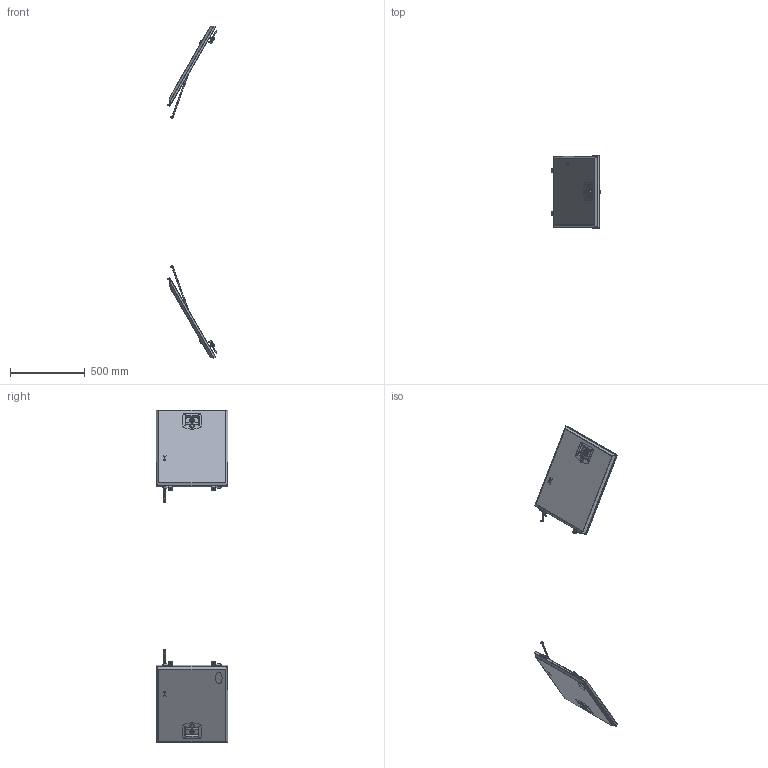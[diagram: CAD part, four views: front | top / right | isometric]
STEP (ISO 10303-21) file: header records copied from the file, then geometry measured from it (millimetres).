
FILE_DESCRIPTION (( 'STEP AP214' ), '1' );
FILE_NAME ('LID FOR SIDE OPENING STEEL TB WITH S-S DOOR-L1200xH500xD500 (3D)-R0.STEP', '2023-10-12T03:12:05', ( '' ), ( '' ), 'SwSTEP 2.0', 'SolidWorks 2021', '' );
FILE_SCHEMA (( 'AUTOMOTIVE_DESIGN' ));
Length unit declared in the file: millimetre
Products named in the file (20): AC-01-Rivet 4mm x 8mmL S-Steel Sealed Dome Rivet; TBPCSSDD1200-Ass Barrel hinge Female Part LH-1; Nyloc Nut M4_DIN EN ISO 7040 - M5 - C; Brass washer M6_Washer ISO 7090 - 6; TBPCSSDD1200-8mm dia Black Plastic Heat Shrink; TBPCSSDD1200-Barrel Hinge Female Part (S-Steel) Weld on; TBPCSSDD1200-Barrel Hinge Male Part LH; Barrel hinge Female Part RH (STEEL); TBPCSSDD1200-PART 4-LW (LID); TBPCSSDD1200-LABLE; Domed Allen Head Bolt M4-15mm long_B18.3.4M - 4 x 0.7 x 16 SBHCS --C; TBPCSSDD1200-Ass Barrel hinge Female Part RH-1; TBPCSSDD1200-Part1; TBPCSSDD1200-STEEL SQUARE PLATE; TBPCSSDD1200-Chain Link; Stainless steel washer to suit M4_B18.22M - Plain washer, 4 mm, narrow; TBPCSSDD1200-PART 4-LW (LID)_TBPCSSDD1200-PART 4 (LID); TBPCSSDD1200-KEY BASE; LID FOR SIDE OPENING STEEL TB WITH S-S DOOR-L1200xH500xD500 (3D)-R0; TBPCSSDD1200-Grease nipple M6
Assembly tree (74 placements, depth 3):
  LID FOR SIDE OPENING STEEL TB WITH S-S DOOR-L1200xH500xD500 (3D)-R0
    TBPCSSDD1200-PART 4-LW (LID)
    TBPCSSDD1200-KEY BASE  x2
    TBPCSSDD1200-LABLE
    TBPCSSDD1200-Ass Barrel hinge Female Part LH-1  x2
      TBPCSSDD1200-Barrel Hinge Female Part (S-Steel) Weld on
      TBPCSSDD1200-Barrel Hinge Male Part LH
      TBPCSSDD1200-Grease nipple M6
      Brass washer M6_Washer ISO 7090 - 6
      Domed Allen Head Bolt M4-15mm long_B18.3.4M - 4 x 0.7 x 16 SBHCS --C
      Stainless steel washer to suit M4_B18.22M - Plain washer, 4 mm, narrow
      Nyloc Nut M4_DIN EN ISO 7040 - M5 - C
    TBPCSSDD1200-Ass Barrel hinge Female Part RH-1  x2
      Brass washer M6_Washer ISO 7090 - 6
      TBPCSSDD1200-Barrel Hinge Female Part (S-Steel) Weld on
      TBPCSSDD1200-Grease nipple M6
      Barrel hinge Female Part RH (STEEL)
      Domed Allen Head Bolt M4-15mm long_B18.3.4M - 4 x 0.7 x 16 SBHCS --C
      Stainless steel washer to suit M4_B18.22M - Plain washer, 4 mm, narrow
      Nyloc Nut M4_DIN EN ISO 7040 - M5 - C
    TBPCSSDD1200-Chain Link  x2
      TBPCSSDD1200-Part1
    TBPCSSDD1200-STEEL SQUARE PLATE  x2
    TBPCSSDD1200-8mm dia Black Plastic Heat Shrink  x2
    Domed Allen Head Bolt M4-15mm long_B18.3.4M - 4 x 0.7 x 16 SBHCS --C  x4
    Stainless steel washer to suit M4_B18.22M - Plain washer, 4 mm, narrow  x8
    Nyloc Nut M4_DIN EN ISO 7040 - M5 - C  x4
    AC-01-Rivet 4mm x 8mmL S-Steel Sealed Dome Rivet  x4
    TBPCSSDD1200-PART 4-LW (LID)_TBPCSSDD1200-PART 4 (LID)
Bounding box: 329.39 x 478 x 2220.91 mm (x, y, z)
Volume: 841726.2 mm3; surface area: 1554880.4 mm2
Topology: 105 solids, 155 shells, 2912 faces, 6916 edges, 4162 vertices
Faces by surface type: cylinder 1060, plane 964, torus 310, cone 284, bspline 224, sphere 70
Entity records: 50962 total; most frequent: CARTESIAN_POINT 19141, ORIENTED_EDGE 5043, DIRECTION 4996, EDGE_CURVE 2673, AXIS2_PLACEMENT_3D 1867, VERTEX_POINT 1654, LINE 1262, VECTOR 1262
